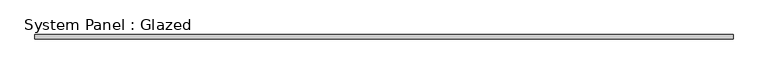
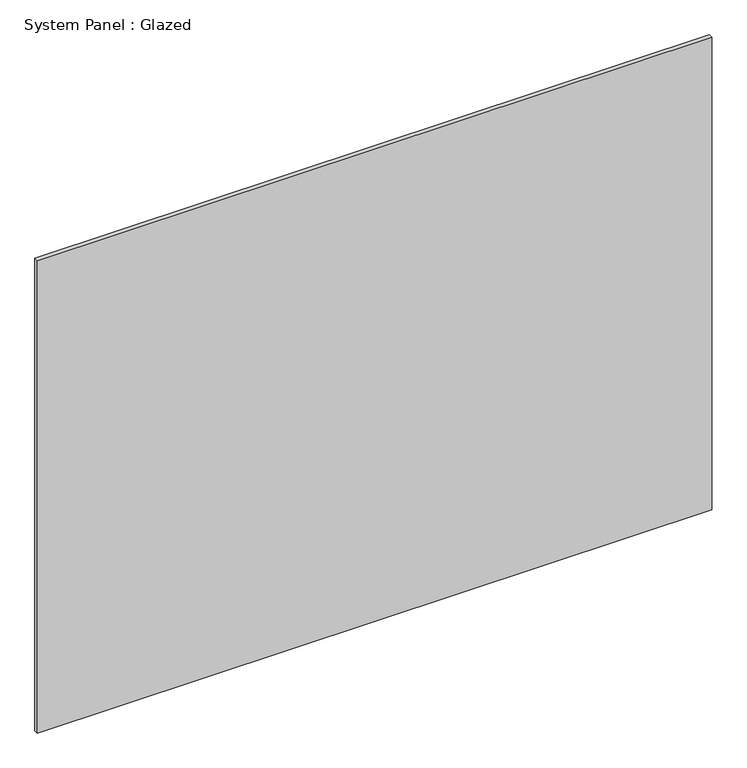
"""IFC4 building model written with IfcOpenShell, lengths in millimetres: plate geometry, System Panel : Glazed."""

from ifc_helpers import new_model, si_unit, origin, origin_with_axes, place, context, project, spatial, polyline, outline, extrude, source, transform, mapped, element, save


def system_panel_glazed_519bd7f2(model_context):
    return source(origin(), model_context, "Body", "SweptSolid", [
        extrude(outline(polyline([(2092.5, -49.5), (-2092.5, -49.5), (-2092.5, -24.5), (2092.5, -24.5), (2092.5, -49.5)])), origin_with_axes(), (0.0, 0.0, 1.0), 3100.0),
    ])


if __name__ == "__main__":
    model = new_model("IFC4")
    model_context = context("Model", 3, world=origin())
    ifc_project = project(units=[si_unit("LENGTHUNIT", "METRE", prefix="MILLI")], contexts=[model_context])
    site = spatial("IfcSite", under=ifc_project)
    building = spatial("IfcBuilding", under=site)
    placement = place(None, origin())
    system_panel_glazed_shape = system_panel_glazed_519bd7f2(model_context)
    element("IfcPlate", 1, ObjectType="System Panel : Glazed", at=placement, inside=building, context=model_context, shape_type="MappedRepresentation", body=[
        mapped(system_panel_glazed_shape, transform((0.0, 0.0, 0.0), x_axis=(1.0, 0.0, 0.0), y_axis=(0.0, 1.0, 0.0), z_axis=(0.0, 0.0, 1.0))),
    ])
    save(model, "model.ifc")
